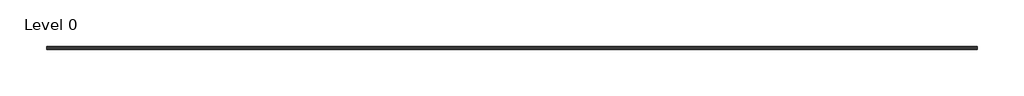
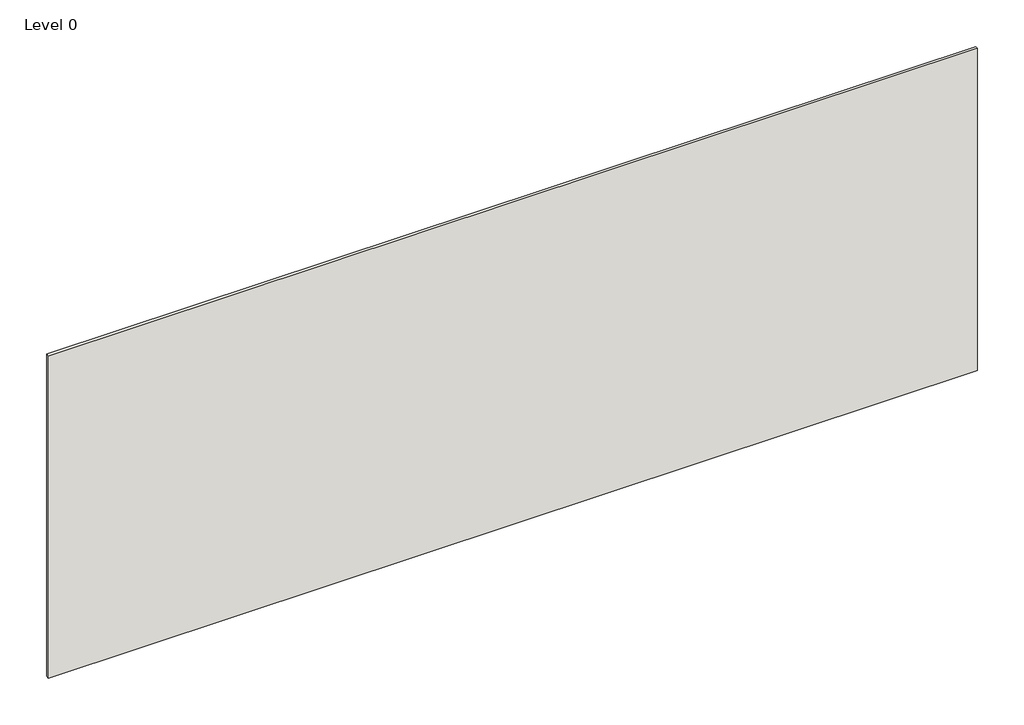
# One storey: 1 wall.
"""IFC4 building model written with IfcOpenShell, lengths in millimetres."""

from ifc_helpers import new_model, si_unit, origin, origin_with_axes, place, context, project, spatial, polyline, outline, extrude, element, save

model = new_model("IFC4")

# Units and contexts
model_context = context("Model", 3, world=origin())
ifc_project = project(units=[si_unit("LENGTHUNIT", "METRE", prefix="MILLI")], contexts=[model_context])

# Site, building, storey
site = spatial("IfcSite", under=ifc_project)
building = spatial("IfcBuilding", under=site)
storey = spatial("IfcBuildingStorey", under=building, Name="Level 0", Elevation=0.0)

# Wall
placement = place(None, origin())
element("IfcWall", 1, ObjectType="B226009 - GypLiner", at=placement, inside=storey, context=model_context, shape_type="SweptSolid", body=[
    extrude(outline(polyline([(5160.9071466, -3242.2263865), (-5739.0928534, -3242.2263865), (-5739.0928534, -3204.7263865), (5160.9071466, -3204.7263865), (5160.9071466, -3242.2263865)])), origin_with_axes(), (0.0, 0.0, 1.0), 4000.0),
])

save(model, "model.ifc")
